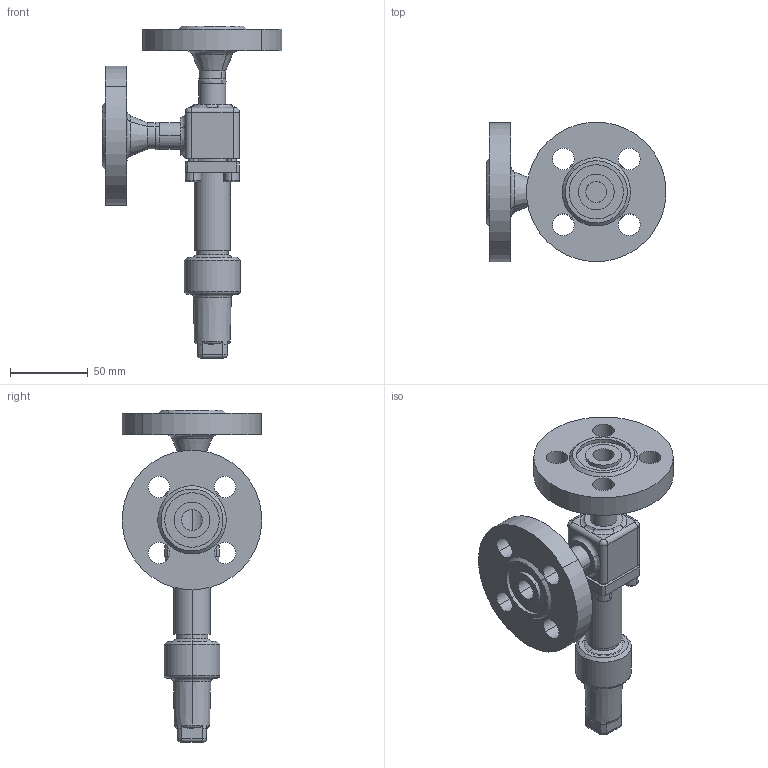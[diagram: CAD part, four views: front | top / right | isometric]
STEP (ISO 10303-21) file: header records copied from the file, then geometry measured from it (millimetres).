
FILE_DESCRIPTION (( 'STEP AP214' ), '1' );
FILE_NAME ('HRAR92430-DN010_DIN-FL-N_PS40.STEP', '2006-05-02T07:40:31', ( 'Herr Grams' ), ( 'AWP GmbH' ), 'SwSTEP 2.0', 'SolidWorks 2002296', '' );
FILE_SCHEMA (( 'AUTOMOTIVE_DESIGN' ));
Length unit declared in the file: millimetre
Products named in the file (10): HRAR92430-DN010_DIN-FL-N_PS40; Geh-kpl96420E08-DN10_PS40_DIN-FL_Standard; Gehäuse96400E08-DN10_PS40_R1_Standard; Flansch-DIN2635-Nut_PS40_DIN-Flansch-DN010_PS40-Nut; bead964-DN010-1_Standard; bead964-DN010-2_Standard; AVR96310E10_Deck+Schr-DN6-15_Standard; Deckel96310E10-DN6-15_PS40_Standard; Zylinderschraube-DIN912_M 6x 18; Kappe96300E10_DN6-20_Standard
Assembly tree (13 placements, depth 3):
  HRAR92430-DN010_DIN-FL-N_PS40
    Kappe96300E10_DN6-20_Standard
    AVR96310E10_Deck+Schr-DN6-15_Standard
      Zylinderschraube-DIN912_M 6x 18  x4
      Deckel96310E10-DN6-15_PS40_Standard
    Geh-kpl96420E08-DN10_PS40_DIN-FL_Standard
      bead964-DN010-1_Standard
      bead964-DN010-2_Standard
      Gehäuse96400E08-DN10_PS40_R1_Standard
      Flansch-DIN2635-Nut_PS40_DIN-Flansch-DN010_PS40-Nut  x2
Bounding box: 115.83 x 89.66 x 214 mm (x, y, z)
Volume: 269353.7 mm3; surface area: 77009.3 mm2
Topology: 11 solids, 11 shells, 307 faces, 688 edges, 427 vertices
Faces by surface type: cylinder 118, plane 94, cone 42, torus 38, bspline 15
Entity records: 13407 total; most frequent: CARTESIAN_POINT 7563, DIRECTION 1134, ORIENTED_EDGE 1004, EDGE_CURVE 502, AXIS2_PLACEMENT_3D 478, VERTEX_POINT 309, EDGE_LOOP 261, CIRCLE 254
